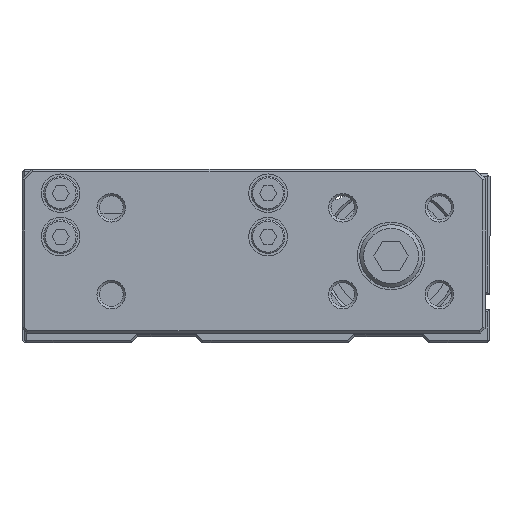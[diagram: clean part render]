
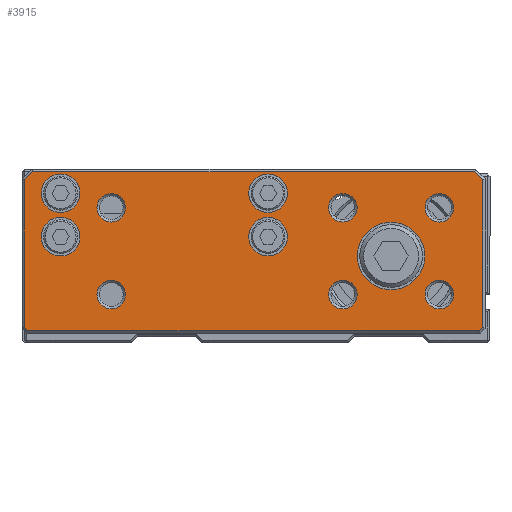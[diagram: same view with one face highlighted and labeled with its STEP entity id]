
A CAD part, front view. The second image highlights one B-rep face of the part: STEP entity #3915.
In plain terms, the highlighted planar face has unit normal (0, -1, 0).
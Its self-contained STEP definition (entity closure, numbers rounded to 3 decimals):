
#3719=CARTESIAN_POINT('',(-7.042,-15.8,10.0));
#3720=VERTEX_POINT('',#3719);
#3721=CARTESIAN_POINT('',(-10.,-15.8,10.0));
#3722=DIRECTION('',(0.0,-1.0,0.0));
#3723=DIRECTION('',(-1.0,0.0,0.0));
#3724=AXIS2_PLACEMENT_3D('',#3721,#3722,#3723);
#3725=CIRCLE('',#3724,2.959);
#3726=EDGE_CURVE('',#3720,#3720,#3725,.T.);
#3731=CARTESIAN_POINT('',(-76.5,-15.8,18.0));
#3732=DIRECTION('',(0.0,-1.0,0.0));
#3733=DIRECTION('',(0.0,0.0,-1.0));
#3734=AXIS2_PLACEMENT_3D('',#3731,#3732,#3733);
#3735=PLANE('',#3734);
#3736=CARTESIAN_POINT('',(19.,-15.8,15.793));
#3737=VERTEX_POINT('',#3736);
#3738=CARTESIAN_POINT('',(19.,-15.8,-14.793));
#3739=VERTEX_POINT('',#3738);
#3740=CARTESIAN_POINT('',(19.,-15.8,15.793));
#3741=DIRECTION('',(0.0,0.0,-1.0));
#3742=VECTOR('',#3741,30.586);
#3743=LINE('',#3740,#3742);
#3744=EDGE_CURVE('',#3737,#3739,#3743,.T.);
#3745=ORIENTED_EDGE('',*,*,#3744,.F.);
#3746=CARTESIAN_POINT('',(17.293,-15.8,17.5));
#3747=VERTEX_POINT('',#3746);
#3748=CARTESIAN_POINT('',(17.293,-15.8,17.5));
#3749=DIRECTION('',(0.707,0.,-0.707));
#3750=VECTOR('',#3749,2.414);
#3751=LINE('',#3748,#3750);
#3752=EDGE_CURVE('',#3747,#3737,#3751,.T.);
#3753=ORIENTED_EDGE('',*,*,#3752,.F.);
#3754=CARTESIAN_POINT('',(-74.293,-15.8,17.5));
#3755=VERTEX_POINT('',#3754);
#3756=CARTESIAN_POINT('',(-74.293,-15.8,17.5));
#3757=DIRECTION('',(1.0,0.0,0.0));
#3758=VECTOR('',#3757,91.586);
#3759=LINE('',#3756,#3758);
#3760=EDGE_CURVE('',#3755,#3747,#3759,.T.);
#3761=ORIENTED_EDGE('',*,*,#3760,.F.);
#3762=CARTESIAN_POINT('',(-76.,-15.8,15.793));
#3763=VERTEX_POINT('',#3762);
#3764=CARTESIAN_POINT('',(-76.,-15.8,15.793));
#3765=DIRECTION('',(0.707,0.,0.707));
#3766=VECTOR('',#3765,2.414);
#3767=LINE('',#3764,#3766);
#3768=EDGE_CURVE('',#3763,#3755,#3767,.T.);
#3769=ORIENTED_EDGE('',*,*,#3768,.F.);
#3770=CARTESIAN_POINT('',(-76.,-15.8,-14.793));
#3771=VERTEX_POINT('',#3770);
#3772=CARTESIAN_POINT('',(-76.,-15.8,-14.793));
#3773=DIRECTION('',(0.0,0.0,1.0));
#3774=VECTOR('',#3773,30.586);
#3775=LINE('',#3772,#3774);
#3776=EDGE_CURVE('',#3771,#3763,#3775,.T.);
#3777=ORIENTED_EDGE('',*,*,#3776,.F.);
#3778=CARTESIAN_POINT('',(-75.293,-15.8,-15.5));
#3779=VERTEX_POINT('',#3778);
#3780=CARTESIAN_POINT('',(-75.293,-15.8,-15.5));
#3781=DIRECTION('',(-0.707,0.,0.707));
#3782=VECTOR('',#3781,1.);
#3783=LINE('',#3780,#3782);
#3784=EDGE_CURVE('',#3779,#3771,#3783,.T.);
#3785=ORIENTED_EDGE('',*,*,#3784,.F.);
#3786=CARTESIAN_POINT('',(18.293,-15.8,-15.5));
#3787=VERTEX_POINT('',#3786);
#3788=CARTESIAN_POINT('',(18.293,-15.8,-15.5));
#3789=DIRECTION('',(-1.0,0.0,0.0));
#3790=VECTOR('',#3789,93.586);
#3791=LINE('',#3788,#3790);
#3792=EDGE_CURVE('',#3787,#3779,#3791,.T.);
#3793=ORIENTED_EDGE('',*,*,#3792,.F.);
#3794=CARTESIAN_POINT('',(19.,-15.8,-14.793));
#3795=DIRECTION('',(-0.707,0.0,-0.707));
#3796=VECTOR('',#3795,1.);
#3797=LINE('',#3794,#3796);
#3798=EDGE_CURVE('',#3739,#3787,#3797,.T.);
#3799=ORIENTED_EDGE('',*,*,#3798,.F.);
#3800=EDGE_LOOP('',(#3745,#3753,#3761,#3769,#3777,#3785,#3793,#3799));
#3801=FACE_OUTER_BOUND('',#3800,.T.);
#3802=CARTESIAN_POINT('',(-7.042,-15.8,-8.0));
#3803=VERTEX_POINT('',#3802);
#3804=CARTESIAN_POINT('',(-10.,-15.8,-8.0));
#3805=DIRECTION('',(0.0,-1.0,0.0));
#3806=DIRECTION('',(-1.0,0.0,0.0));
#3807=AXIS2_PLACEMENT_3D('',#3804,#3805,#3806);
#3808=CIRCLE('',#3807,2.959);
#3809=EDGE_CURVE('',#3803,#3803,#3808,.T.);
#3810=ORIENTED_EDGE('',*,*,#3809,.F.);
#3811=EDGE_LOOP('',(#3810));
#3812=FACE_BOUND('',#3811,.T.);
#3813=CARTESIAN_POINT('',(12.959,-15.8,-8.));
#3814=VERTEX_POINT('',#3813);
#3815=CARTESIAN_POINT('',(10.0,-15.8,-8.));
#3816=DIRECTION('',(0.0,-1.0,0.0));
#3817=DIRECTION('',(-1.0,0.0,0.0));
#3818=AXIS2_PLACEMENT_3D('',#3815,#3816,#3817);
#3819=CIRCLE('',#3818,2.959);
#3820=EDGE_CURVE('',#3814,#3814,#3819,.T.);
#3821=ORIENTED_EDGE('',*,*,#3820,.F.);
#3822=EDGE_LOOP('',(#3821));
#3823=FACE_BOUND('',#3822,.T.);
#3824=CARTESIAN_POINT('',(12.959,-15.8,10.));
#3825=VERTEX_POINT('',#3824);
#3826=CARTESIAN_POINT('',(10.0,-15.8,10.));
#3827=DIRECTION('',(0.0,-1.0,0.0));
#3828=DIRECTION('',(-1.0,0.0,0.0));
#3829=AXIS2_PLACEMENT_3D('',#3826,#3827,#3828);
#3830=CIRCLE('',#3829,2.959);
#3831=EDGE_CURVE('',#3825,#3825,#3830,.T.);
#3832=ORIENTED_EDGE('',*,*,#3831,.F.);
#3833=EDGE_LOOP('',(#3832));
#3834=FACE_BOUND('',#3833,.T.);
#3835=CARTESIAN_POINT('',(7.,-15.8,0.0));
#3836=VERTEX_POINT('',#3835);
#3837=CARTESIAN_POINT('',(0.,-15.8,0.0));
#3838=DIRECTION('',(0.0,1.0,0.0));
#3839=DIRECTION('',(1.0,0.0,0.0));
#3840=AXIS2_PLACEMENT_3D('',#3837,#3838,#3839);
#3841=CIRCLE('',#3840,7.);
#3842=EDGE_CURVE('',#3836,#3836,#3841,.T.);
#3843=ORIENTED_EDGE('',*,*,#3842,.T.);
#3844=EDGE_LOOP('',(#3843));
#3845=FACE_BOUND('',#3844,.T.);
#3846=CARTESIAN_POINT('',(-64.5,-15.8,13.));
#3847=VERTEX_POINT('',#3846);
#3848=CARTESIAN_POINT('',(-68.5,-15.8,13.));
#3849=DIRECTION('',(0.0,1.0,0.0));
#3850=DIRECTION('',(1.0,0.0,0.0));
#3851=AXIS2_PLACEMENT_3D('',#3848,#3849,#3850);
#3852=CIRCLE('',#3851,4.0);
#3853=EDGE_CURVE('',#3847,#3847,#3852,.T.);
#3854=ORIENTED_EDGE('',*,*,#3853,.T.);
#3855=EDGE_LOOP('',(#3854));
#3856=FACE_BOUND('',#3855,.T.);
#3857=CARTESIAN_POINT('',(-64.5,-15.8,4.));
#3858=VERTEX_POINT('',#3857);
#3859=CARTESIAN_POINT('',(-68.5,-15.8,4.));
#3860=DIRECTION('',(0.0,1.0,0.0));
#3861=DIRECTION('',(1.0,0.0,0.0));
#3862=AXIS2_PLACEMENT_3D('',#3859,#3860,#3861);
#3863=CIRCLE('',#3862,4.0);
#3864=EDGE_CURVE('',#3858,#3858,#3863,.T.);
#3865=ORIENTED_EDGE('',*,*,#3864,.T.);
#3866=EDGE_LOOP('',(#3865));
#3867=FACE_BOUND('',#3866,.T.);
#3868=CARTESIAN_POINT('',(-21.5,-15.8,13.));
#3869=VERTEX_POINT('',#3868);
#3870=CARTESIAN_POINT('',(-25.5,-15.8,13.));
#3871=DIRECTION('',(0.0,1.0,0.0));
#3872=DIRECTION('',(1.0,0.0,0.0));
#3873=AXIS2_PLACEMENT_3D('',#3870,#3871,#3872);
#3874=CIRCLE('',#3873,4.0);
#3875=EDGE_CURVE('',#3869,#3869,#3874,.T.);
#3876=ORIENTED_EDGE('',*,*,#3875,.T.);
#3877=EDGE_LOOP('',(#3876));
#3878=FACE_BOUND('',#3877,.T.);
#3879=CARTESIAN_POINT('',(-21.5,-15.8,4.));
#3880=VERTEX_POINT('',#3879);
#3881=CARTESIAN_POINT('',(-25.5,-15.8,4.));
#3882=DIRECTION('',(0.0,1.0,0.0));
#3883=DIRECTION('',(1.0,0.0,0.0));
#3884=AXIS2_PLACEMENT_3D('',#3881,#3882,#3883);
#3885=CIRCLE('',#3884,4.0);
#3886=EDGE_CURVE('',#3880,#3880,#3885,.T.);
#3887=ORIENTED_EDGE('',*,*,#3886,.T.);
#3888=EDGE_LOOP('',(#3887));
#3889=FACE_BOUND('',#3888,.T.);
#3890=CARTESIAN_POINT('',(-55.042,-15.8,-8.));
#3891=VERTEX_POINT('',#3890);
#3892=CARTESIAN_POINT('',(-58.,-15.8,-8.));
#3893=DIRECTION('',(0.0,-1.0,0.0));
#3894=DIRECTION('',(-1.0,0.0,0.0));
#3895=AXIS2_PLACEMENT_3D('',#3892,#3893,#3894);
#3896=CIRCLE('',#3895,2.958);
#3897=EDGE_CURVE('',#3891,#3891,#3896,.T.);
#3898=ORIENTED_EDGE('',*,*,#3897,.F.);
#3899=EDGE_LOOP('',(#3898));
#3900=FACE_BOUND('',#3899,.T.);
#3901=CARTESIAN_POINT('',(-55.042,-15.8,10.));
#3902=VERTEX_POINT('',#3901);
#3903=CARTESIAN_POINT('',(-58.,-15.8,10.));
#3904=DIRECTION('',(0.0,-1.0,0.0));
#3905=DIRECTION('',(-1.0,0.0,0.0));
#3906=AXIS2_PLACEMENT_3D('',#3903,#3904,#3905);
#3907=CIRCLE('',#3906,2.958);
#3908=EDGE_CURVE('',#3902,#3902,#3907,.T.);
#3909=ORIENTED_EDGE('',*,*,#3908,.F.);
#3910=EDGE_LOOP('',(#3909));
#3911=FACE_BOUND('',#3910,.T.);
#3912=ORIENTED_EDGE('',*,*,#3726,.F.);
#3913=EDGE_LOOP('',(#3912));
#3914=FACE_BOUND('',#3913,.T.);
#3915=ADVANCED_FACE('',(#3801,#3812,#3823,#3834,#3845,#3856,#3867,#3878,#3889,#3900,#3911,#3914),#3735,.T.);
